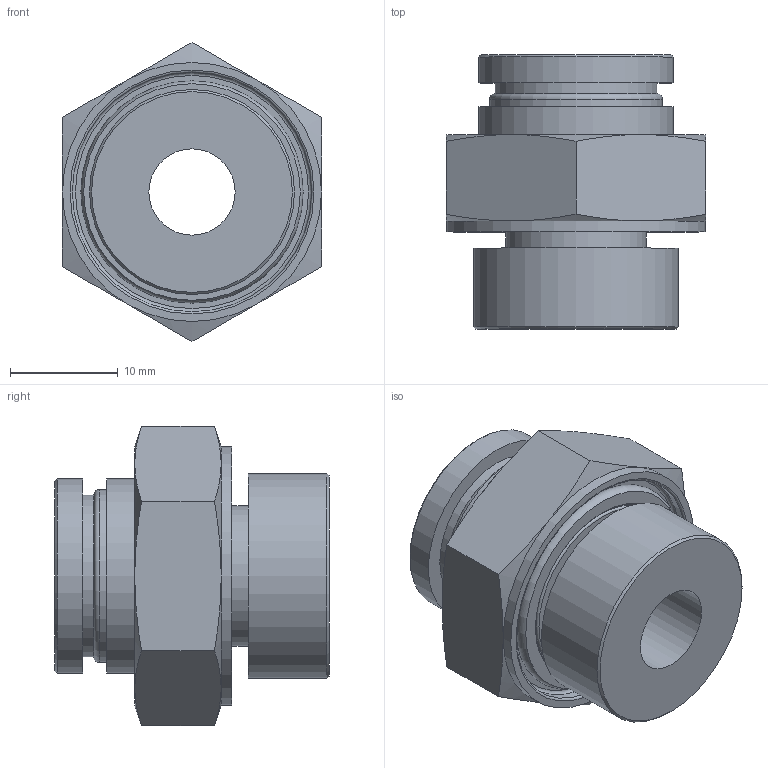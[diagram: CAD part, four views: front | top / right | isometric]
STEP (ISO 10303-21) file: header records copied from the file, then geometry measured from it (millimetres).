
FILE_DESCRIPTION(/* description */ (''),/* implementation_level */ '2;1');
FILE_NAME(/* name */ 'LXH18 0010 B4.stp',/* time_stamp */ '2026-04-20T19:38:09+02:00',/* author */ ('freju'),/* organization */ (''),/* preprocessor_version */ 'ST-DEVELOPER v20.1',/* originating_system */ 'Autodesk Inventor 2026',/* authorisation */ '');
FILE_SCHEMA (('AUTOMOTIVE_DESIGN { 1 0 10303 214 3 1 1 }'));
Length unit declared in the file: millimetre
Products named in the file (4): LXH18 0010 B4; LXH18 0010 B4_1; O-Ring; ISO 3601-1 - A 0170 G
Assembly tree (3 placements, depth 3):
  LXH18 0010 B4
    LXH18 0010 B4_1
    O-Ring
      ISO 3601-1 - A 0170 G
Bounding box: 24 x 25.4 x 27.71 mm (x, y, z)
Volume: 6848 mm3; surface area: 4100.4 mm2
Topology: 2 solids, 2 shells, 50 faces, 101 edges, 63 vertices
Faces by surface type: plane 18, cone 14, cylinder 11, torus 7
Full cylindrical faces by diameter (mm): 8 x1, 10 x1, 13 x1, 15 x1, 16 x1, 17 x1, 18 x2, 19 x1, 22.2 x1, 24 x1
Entity records: 1445 total; most frequent: CARTESIAN_POINT 269, DIRECTION 249, ORIENTED_EDGE 202, AXIS2_PLACEMENT_3D 115, EDGE_CURVE 101, VERTEX_POINT 63, EDGE_LOOP 62, CIRCLE 58
